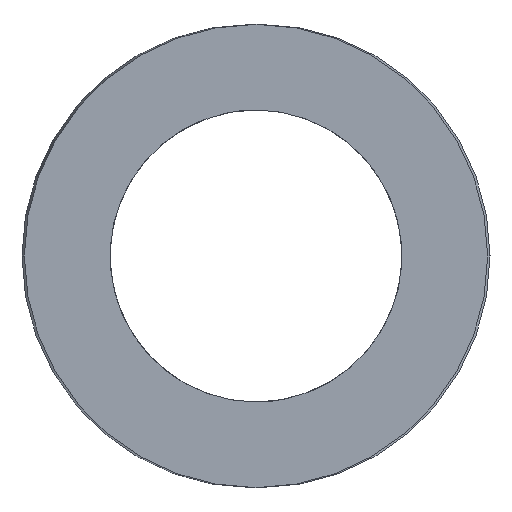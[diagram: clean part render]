
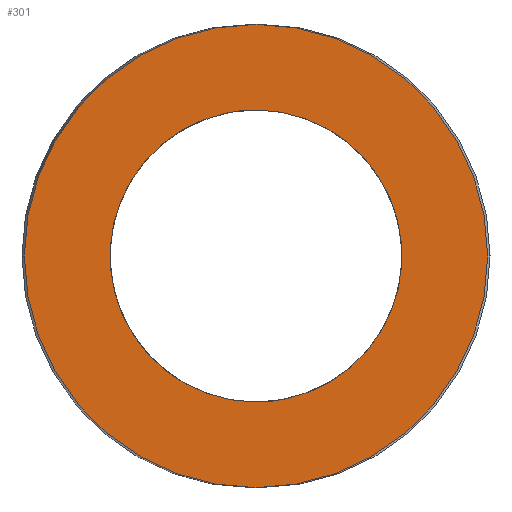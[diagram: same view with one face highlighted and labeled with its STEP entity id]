
A CAD part, left-side view. The second image highlights one B-rep face of the part: STEP entity #301.
In plain terms, the highlighted planar face has unit normal (-1, 0, 0).
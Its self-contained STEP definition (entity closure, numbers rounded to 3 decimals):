
#63=CARTESIAN_POINT('Vertex',(0.,31.1,0.)) ;
#77=CARTESIAN_POINT('Vertex',(0.,-31.1,0.)) ;
#80=CARTESIAN_POINT('Axis2P3D Location',(0.,0.,0.)) ;
#97=CARTESIAN_POINT('Axis2P3D Location',(0.,0.,0.)) ;
#232=CARTESIAN_POINT('Axis2P3D Location',(0.,15.55,0.)) ;
#242=CARTESIAN_POINT('Control Point',(0.,0.,-19.6)) ;
#243=CARTESIAN_POINT('Control Point',(0.,1.952,-19.6)) ;
#244=CARTESIAN_POINT('Control Point',(0.,3.904,-19.357)) ;
#245=CARTESIAN_POINT('Control Point',(0.,5.816,-18.871)) ;
#246=CARTESIAN_POINT('Control Point',(0.,9.478,-17.433)) ;
#247=CARTESIAN_POINT('Control Point',(0.,12.675,-15.142)) ;
#248=CARTESIAN_POINT('Control Point',(0.,14.123,-13.802)) ;
#249=CARTESIAN_POINT('Control Point',(0.,16.653,-10.789)) ;
#250=CARTESIAN_POINT('Control Point',(0.,18.368,-7.249)) ;
#251=CARTESIAN_POINT('Control Point',(0.,19.,-5.38)) ;
#252=CARTESIAN_POINT('Control Point',(0.,19.784,-1.525)) ;
#253=CARTESIAN_POINT('Control Point',(0.,19.6,2.405)) ;
#254=CARTESIAN_POINT('Control Point',(0.,19.262,4.348)) ;
#255=CARTESIAN_POINT('Control Point',(0.,18.11,8.11)) ;
#256=CARTESIAN_POINT('Control Point',(0.,16.071,11.474)) ;
#257=CARTESIAN_POINT('Control Point',(0.,14.846,13.02)) ;
#258=CARTESIAN_POINT('Control Point',(0.,12.037,15.775)) ;
#259=CARTESIAN_POINT('Control Point',(0.,8.639,17.757)) ;
#260=CARTESIAN_POINT('Control Point',(0.,6.824,18.53)) ;
#261=CARTESIAN_POINT('Control Point',(0.,4.349,19.236)) ;
#262=CARTESIAN_POINT('Control Point',(0.,1.809,19.53)) ;
#263=CARTESIAN_POINT('Control Point',(0.,1.206,19.577)) ;
#264=CARTESIAN_POINT('Control Point',(0.,0.603,19.6)) ;
#265=CARTESIAN_POINT('Control Point',(0.,0.,19.6)) ;
#266=CARTESIAN_POINT('Vertex',(0.,0.,-19.6)) ;
#268=CARTESIAN_POINT('Vertex',(0.,0.,19.6)) ;
#272=CARTESIAN_POINT('Control Point',(0.,0.,19.6)) ;
#273=CARTESIAN_POINT('Control Point',(0.,-1.952,19.6)) ;
#274=CARTESIAN_POINT('Control Point',(0.,-3.904,19.357)) ;
#275=CARTESIAN_POINT('Control Point',(0.,-5.816,18.871)) ;
#276=CARTESIAN_POINT('Control Point',(0.,-9.478,17.433)) ;
#277=CARTESIAN_POINT('Control Point',(0.,-12.675,15.142)) ;
#278=CARTESIAN_POINT('Control Point',(0.,-14.123,13.802)) ;
#279=CARTESIAN_POINT('Control Point',(0.,-16.653,10.789)) ;
#280=CARTESIAN_POINT('Control Point',(0.,-18.368,7.249)) ;
#281=CARTESIAN_POINT('Control Point',(0.,-19.,5.38)) ;
#282=CARTESIAN_POINT('Control Point',(0.,-19.784,1.525)) ;
#283=CARTESIAN_POINT('Control Point',(0.,-19.6,-2.405)) ;
#284=CARTESIAN_POINT('Control Point',(0.,-19.262,-4.348)) ;
#285=CARTESIAN_POINT('Control Point',(0.,-18.11,-8.11)) ;
#286=CARTESIAN_POINT('Control Point',(0.,-16.071,-11.474)) ;
#287=CARTESIAN_POINT('Control Point',(0.,-14.846,-13.02)) ;
#288=CARTESIAN_POINT('Control Point',(0.,-12.037,-15.775)) ;
#289=CARTESIAN_POINT('Control Point',(0.,-8.639,-17.757)) ;
#290=CARTESIAN_POINT('Control Point',(0.,-6.824,-18.53)) ;
#291=CARTESIAN_POINT('Control Point',(0.,-4.349,-19.236)) ;
#292=CARTESIAN_POINT('Control Point',(0.,-1.809,-19.53)) ;
#293=CARTESIAN_POINT('Control Point',(0.,-1.206,-19.577)) ;
#294=CARTESIAN_POINT('Control Point',(0.,-0.603,-19.6)) ;
#295=CARTESIAN_POINT('Control Point',(0.,0.,-19.6)) ;
#81=DIRECTION('Axis2P3D Direction',(1.,-0.,0.)) ;
#98=DIRECTION('Axis2P3D Direction',(1.,-0.,0.)) ;
#233=DIRECTION('Axis2P3D Direction',(-1.,0.,0.)) ;
#234=DIRECTION('Axis2P3D XDirection',(0.,1.,0.)) ;
#82=AXIS2_PLACEMENT_3D('Circle Axis2P3D',#80,#81,$) ;
#99=AXIS2_PLACEMENT_3D('Circle Axis2P3D',#97,#98,$) ;
#235=AXIS2_PLACEMENT_3D('Plane Axis2P3D',#232,#233,#234) ;
#238=ORIENTED_EDGE('',*,*,#84,.T.) ;
#239=ORIENTED_EDGE('',*,*,#101,.T.) ;
#298=ORIENTED_EDGE('',*,*,#270,.T.) ;
#299=ORIENTED_EDGE('',*,*,#296,.T.) ;
#300=FACE_BOUND('',#297,.T.) ;
#301=ADVANCED_FACE('392-B63-152',(#240,#300),#236,.T.) ;
#241=B_SPLINE_CURVE_WITH_KNOTS('',5,(#242,#243,#244,#245,#246,#247,#248,#249,#250,#251,#252,#253,#254,#255,#256,#257,#258,#259,#260,#261,#262,#263,#264,#265),.UNSPECIFIED.,.F.,.U.,(6,3,3,3,3,3,3,6),(0.,13.802,27.605,41.407,55.21,69.012,82.815,87.077),.UNSPECIFIED.) ;
#271=B_SPLINE_CURVE_WITH_KNOTS('',5,(#272,#273,#274,#275,#276,#277,#278,#279,#280,#281,#282,#283,#284,#285,#286,#287,#288,#289,#290,#291,#292,#293,#294,#295),.UNSPECIFIED.,.F.,.U.,(6,3,3,3,3,3,3,6),(0.,13.802,27.605,41.407,55.21,69.012,82.815,87.077),.UNSPECIFIED.) ;
#83=CIRCLE('generated circle',#82,31.1) ;
#100=CIRCLE('generated circle',#99,31.1) ;
#84=EDGE_CURVE('',#64,#78,#83,.F.) ;
#101=EDGE_CURVE('',#78,#64,#100,.F.) ;
#270=EDGE_CURVE('',#267,#269,#241,.T.) ;
#296=EDGE_CURVE('',#269,#267,#271,.T.) ;
#237=EDGE_LOOP('',(#238,#239)) ;
#297=EDGE_LOOP('',(#298,#299)) ;
#240=FACE_OUTER_BOUND('',#237,.T.) ;
#236=PLANE('Plane',#235) ;
#64=VERTEX_POINT('',#63) ;
#78=VERTEX_POINT('',#77) ;
#267=VERTEX_POINT('',#266) ;
#269=VERTEX_POINT('',#268) ;
